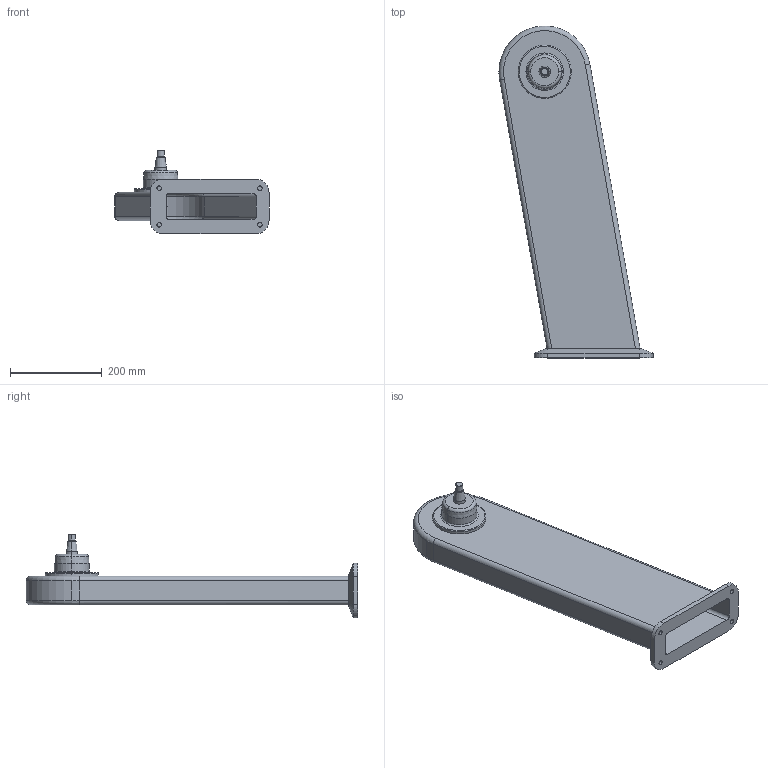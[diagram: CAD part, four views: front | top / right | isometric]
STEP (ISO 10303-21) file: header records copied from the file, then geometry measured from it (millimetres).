
FILE_DESCRIPTION (( 'STEP AP214' ), '1' );
FILE_NAME ('WP800_H625_-10.STEP', '2014-06-26T12:19:12', ( '' ), ( '' ), 'SwSTEP 2.0', 'SolidWorks 2014', '' );
FILE_SCHEMA (( 'AUTOMOTIVE_DESIGN' ));
Length unit declared in the file: millimetre
Products named in the file (1): WP800_H625_-10
Bounding box: 336.68 x 725 x 183.29 mm (x, y, z)
Volume: 1661170 mm3; surface area: 779512.3 mm2
Topology: 1 solids, 1 shells, 90 faces, 196 edges, 118 vertices
Faces by surface type: cylinder 38, plane 26, cone 16, torus 10
Entity records: 2490 total; most frequent: DIRECTION 466, CARTESIAN_POINT 429, ORIENTED_EDGE 392, EDGE_CURVE 196, AXIS2_PLACEMENT_3D 187, VERTEX_POINT 118, EDGE_LOOP 102, CIRCLE 96
